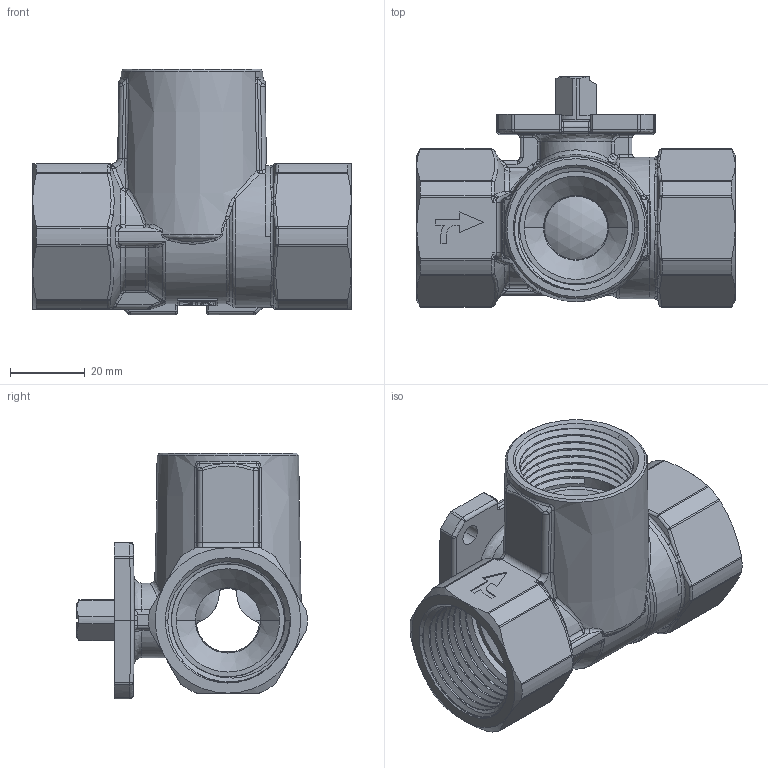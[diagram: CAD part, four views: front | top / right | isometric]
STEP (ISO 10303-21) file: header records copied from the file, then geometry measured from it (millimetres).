
FILE_DESCRIPTION((''),'2;1');
FILE_NAME('H980T1025_1527_SW0001','2015-05-21T',('64ciro'),('Vir spa'),'PRO/ENGINEER BY PARAMETRIC TECHNOLOGY CORPORATION, 2010280','PRO/ENGINEER BY PARAMETRIC TECHNOLOGY CORPORATION, 2010280','');
FILE_SCHEMA(('CONFIG_CONTROL_DESIGN'));
Products named in the file (1): H980T1025_1527_SW0001
Bounding box: 85.4 x 61.74 x 65.8 mm (x, y, z)
Volume: 76393.2 mm3; surface area: 42627.9 mm2
Topology: 1 solids, 1 shells, 1280 faces, 3254 edges, 2028 vertices
Faces by surface type: plane 568, cylinder 266, bspline 250, torus 82, cone 80, sphere 32, extrusion 2
Entity records: 58562 total; most frequent: CARTESIAN_POINT 29600, ORIENTED_EDGE 6508, DIRECTION 5312, EDGE_CURVE 3254, VERTEX_POINT 2028, AXIS2_PLACEMENT_3D 1791, VECTOR 1730, LINE 1728
